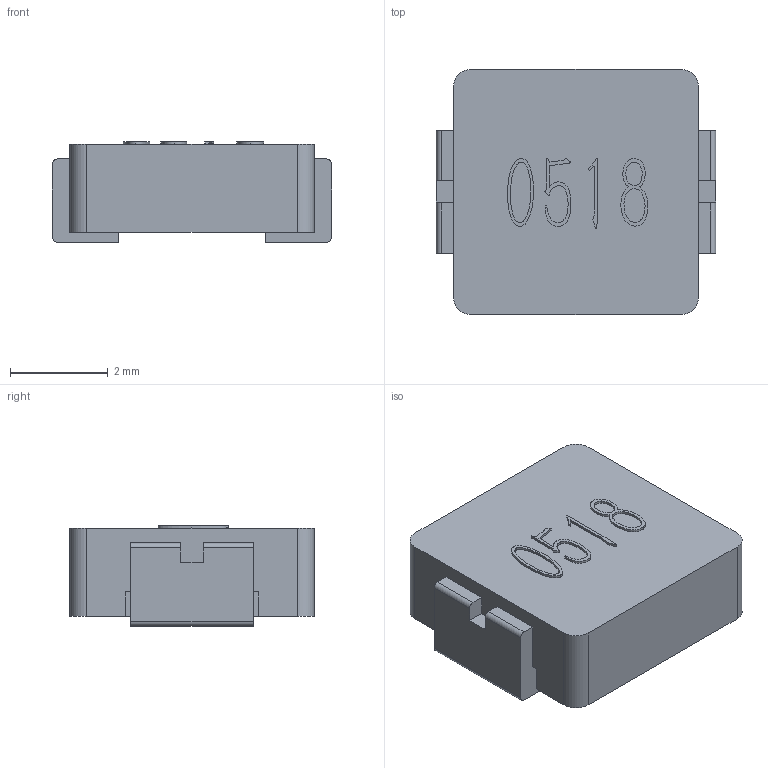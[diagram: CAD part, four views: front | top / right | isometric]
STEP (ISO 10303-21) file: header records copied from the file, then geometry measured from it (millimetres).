
FILE_DESCRIPTION (( 'STEP AP214' ), '1' );
FILE_NAME ('0518.STEP', '2026-05-18T06:38:28', ( '' ), ( '' ), 'SwSTEP 2.0', 'SolidWorks 2025', '' );
FILE_SCHEMA (( 'AUTOMOTIVE_DESIGN' ));
Length unit declared in the file: millimetre
Products named in the file (3): body0518; pin; 0518
Assembly tree (3 placements, depth 2):
  0518
    body0518
    pin  x2
Bounding box: 5.7 x 5 x 2.05 mm (x, y, z)
Volume: 48.5 mm3; surface area: 122.9 mm2
Topology: 3 solids, 3 shells, 128 faces, 345 edges, 230 vertices
Faces by surface type: plane 74, bspline 44, cylinder 10
Entity records: 6611 total; most frequent: CARTESIAN_POINT 3089, ORIENTED_EDGE 612, DIRECTION 382, EDGE_CURVE 306, VERTEX_POINT 204, LINE 204, VECTOR 204, EDGE_LOOP 120
